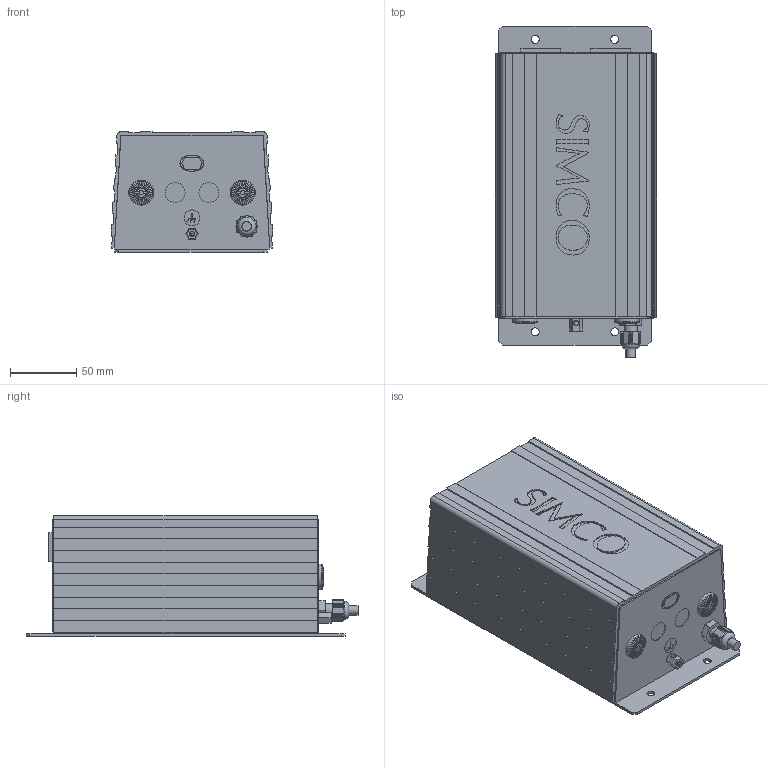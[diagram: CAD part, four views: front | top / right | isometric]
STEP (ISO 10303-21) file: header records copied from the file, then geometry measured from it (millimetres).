
FILE_DESCRIPTION(('ONLY FOR INFORMATION','HiCAD-Model','HiCAD-STEP-TRANSLATION'),'2;1');
FILE_NAME('Q:/##','2010-00-00',('D&E Department'),('Simco (Nederland) B.V.','Aalsvoort 74','NL-7241 MB LOCHEM','www.simco-ion.nl'),' HiCAD neXt 2008, Step 3.1.1401.2G ','HiCAD neXt 2008','confidential');
FILE_SCHEMA(('AUTOMOTIVE_DESIGN { 1 2 10303 214 0 1 1 1 }'));
Length unit declared in the file: millimetre
Products named in the file (4): SIMCO_A_UNIT; SIMCO_PU_TYPE_A; SIMCO0PU0TYPE0A; LID
Assembly tree (3 placements, depth 3):
  SIMCO_A_UNIT
    SIMCO_PU_TYPE_A
    SIMCO0PU0TYPE0A
      LID
Bounding box: 121.84 x 249.75 x 90.92 mm (x, y, z)
Volume: 2126758.7 mm3; surface area: 232964.3 mm2
Topology: 4 solids, 6 shells, 799 faces, 2260 edges, 1489 vertices
Faces by surface type: plane 608, cylinder 139, torus 43, cone 7, sphere 2
Full cylindrical faces by diameter (mm): 3.141 x1, 3.2 x1, 3.9 x1, 4 x2, 4.5 x1, 6 x4, 7.05 x1, 7.28 x1, 8.2 x1, 9.8 x1, 9.85 x1, 9.853 x1, 11.4 x2, 12 x2, 15 x3, 18.9 x2
Entity records: 37322 total; most frequent: CARTESIAN_POINT 6064, ORIENTED_EDGE 4346, DIRECTION 4002, EDGE_CURVE 2173, COLOUR_RGB 2133, PRESENTATION_STYLE_ASSIGNMENT 2133, OVER_RIDING_STYLED_ITEM 2131, CURVE_STYLE 2116
